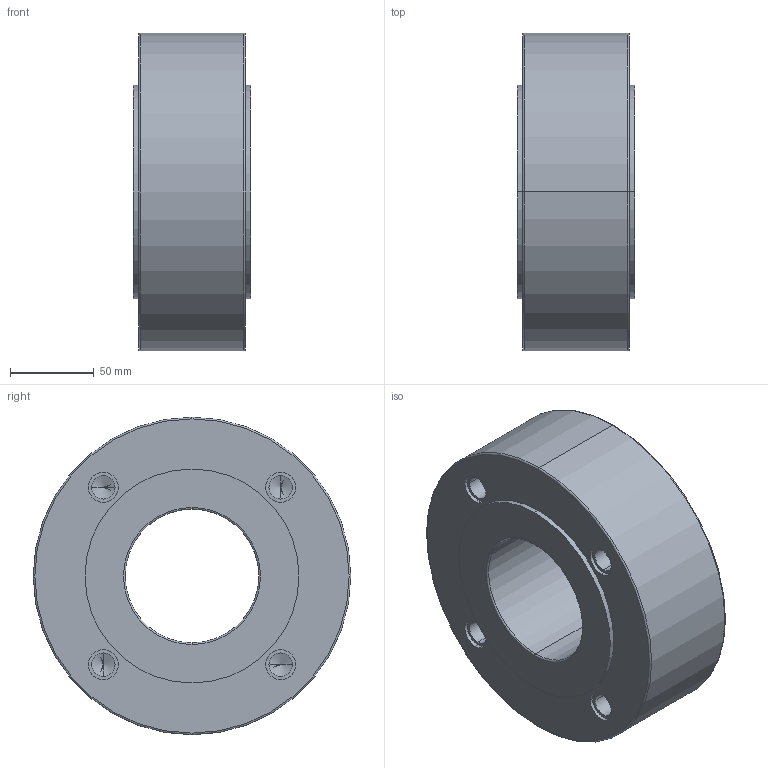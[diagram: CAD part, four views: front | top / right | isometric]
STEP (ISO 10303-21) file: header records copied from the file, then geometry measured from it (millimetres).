
FILE_DESCRIPTION (( 'STEP AP203' ), '1' );
FILE_NAME ('W8_PN06_DN080.STEP', '2012-10-31T07:09:22', ( 'luca.saino' ), ( 'Hewlett-Packard Company' ), 'SwSTEP 2.0', 'SolidWorks 2012', '' );
FILE_SCHEMA (( 'CONFIG_CONTROL_DESIGN' ));
Length unit declared in the file: millimetre
Products named in the file (1): W8_PN06_DN080
Bounding box: 70 x 190 x 190 mm (x, y, z)
Volume: 1510742.7 mm3; surface area: 111889.8 mm2
Topology: 1 solids, 1 shells, 76 faces, 168 edges, 96 vertices
Faces by surface type: cylinder 40, cone 16, plane 12, torus 8
Entity records: 2085 total; most frequent: DIRECTION 402, CARTESIAN_POINT 325, ORIENTED_EDGE 304, AXIS2_PLACEMENT_3D 173, EDGE_CURVE 152, CIRCLE 96, EDGE_LOOP 96, VERTEX_POINT 96
